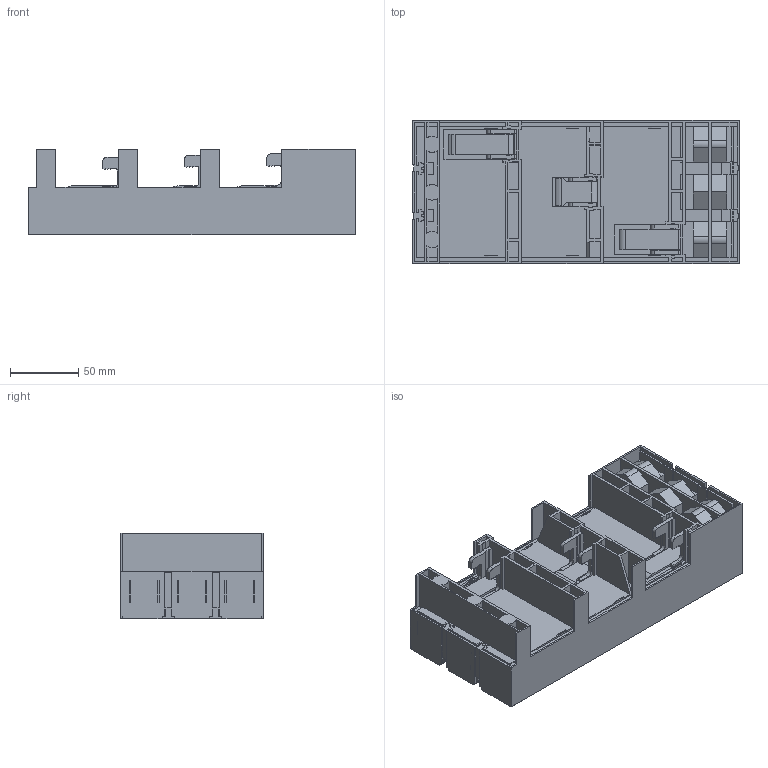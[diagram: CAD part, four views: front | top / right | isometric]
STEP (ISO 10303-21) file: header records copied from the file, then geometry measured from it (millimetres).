
FILE_DESCRIPTION (( 'STEP AP203' ), '1' );
FILE_NAME ('55601.STEP', '2021-08-25T01:01:06', ( '' ), ( '' ), 'SwSTEP 2.0', 'SolidWorks 2017', '' );
FILE_SCHEMA (( 'CONFIG_CONTROL_DESIGN' ));
Length unit declared in the file: millimetre
Products named in the file (2): 55601
Bounding box: 240 x 105 x 63 mm (x, y, z)
Volume: 964926.6 mm3; surface area: 193196.4 mm2
Topology: 5 solids, 34 shells, 2845 faces, 8388 edges, 5451 vertices
Faces by surface type: plane 2529, cylinder 276, bspline 32, cone 8
Full cylindrical faces by diameter (mm): 3.2 x8, 7 x6, 7.5 x3, 8 x4, 15.5 x15
Entity records: 97657 total; most frequent: CARTESIAN_POINT 22620, ORIENTED_EDGE 16670, DIRECTION 13589, EDGE_CURVE 8335, LINE 7291, VECTOR 7291, VERTEX_POINT 5449, EDGE_LOOP 3160
